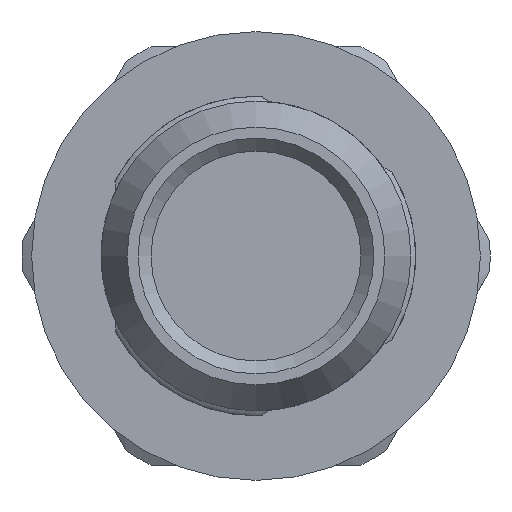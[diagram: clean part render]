
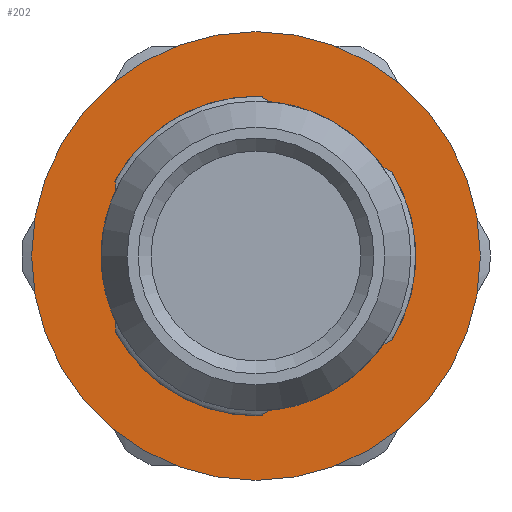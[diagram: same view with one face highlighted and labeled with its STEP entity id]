
A CAD part, front view. The second image highlights one B-rep face of the part: STEP entity #202.
In plain terms, the highlighted planar face has unit normal (0, -1, 0).
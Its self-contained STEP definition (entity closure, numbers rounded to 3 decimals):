
#202 = ADVANCED_FACE( 'NONE', ( #452, #453 ), #454, .T. );
#452 = FACE_OUTER_BOUND( '', #740, .T. );
#453 = FACE_BOUND( '', #741, .T. );
#454 = PLANE( '', #742 );
#740 = EDGE_LOOP( '', ( #1171 ) );
#741 = EDGE_LOOP( '', ( #1172, #1173, #1174, #1175, #1176, #1177, #1178, #1179, #1180, #1181, #1182, #1183 ) );
#742 = AXIS2_PLACEMENT_3D( '', #1184, #1185, #1186 );
#1171 = ORIENTED_EDGE( '', *, *, #1484, .T. );
#1172 = ORIENTED_EDGE( '', *, *, #1530, .F. );
#1173 = ORIENTED_EDGE( '', *, *, #1588, .T. );
#1174 = ORIENTED_EDGE( '', *, *, #1576, .F. );
#1175 = ORIENTED_EDGE( '', *, *, #1549, .F. );
#1176 = ORIENTED_EDGE( '', *, *, #1440, .F. );
#1177 = ORIENTED_EDGE( '', *, *, #1589, .T. );
#1178 = ORIENTED_EDGE( '', *, *, #1590, .F. );
#1179 = ORIENTED_EDGE( '', *, *, #1546, .F. );
#1180 = ORIENTED_EDGE( '', *, *, #1591, .F. );
#1181 = ORIENTED_EDGE( '', *, *, #1592, .T. );
#1182 = ORIENTED_EDGE( '', *, *, #1593, .F. );
#1183 = ORIENTED_EDGE( '', *, *, #1543, .F. );
#1184 = CARTESIAN_POINT( '', ( 4.95, 6.2, 0. ) );
#1185 = DIRECTION( '', ( 0., -1., 0. ) );
#1186 = DIRECTION( '', ( 0., 0., -1. ) );
#1440 = EDGE_CURVE( 'NONE', #1656, #1659, #1660, .T. );
#1484 = EDGE_CURVE( 'NONE', #1731, #1731, #1732, .T. );
#1530 = EDGE_CURVE( 'NONE', #1810, #1813, #1814, .T. );
#1543 = EDGE_CURVE( 'NONE', #1813, #1834, #1835, .T. );
#1546 = EDGE_CURVE( 'NONE', #1837, #1839, #1840, .T. );
#1549 = EDGE_CURVE( 'NONE', #1659, #1844, #1845, .T. );
#1576 = EDGE_CURVE( 'NONE', #1844, #1882, #1885, .T. );
#1588 = EDGE_CURVE( 'NONE', #1810, #1882, #1901, .T. );
#1589 = EDGE_CURVE( 'NONE', #1656, #1902, #1903, .T. );
#1590 = EDGE_CURVE( 'NONE', #1839, #1902, #1904, .T. );
#1591 = EDGE_CURVE( 'NONE', #1905, #1837, #1906, .T. );
#1592 = EDGE_CURVE( 'NONE', #1905, #1907, #1908, .T. );
#1593 = EDGE_CURVE( 'NONE', #1834, #1907, #1909, .T. );
#1656 = VERTEX_POINT( 'NONE', #1985 );
#1659 = VERTEX_POINT( 'NONE', #1989 );
#1660 = LINE( '', #1990, #1991 );
#1731 = VERTEX_POINT( '', #2254 );
#1732 = CIRCLE( '', #2255, 6.95 );
#1810 = VERTEX_POINT( 'NONE', #2485 );
#1813 = VERTEX_POINT( 'NONE', #2489 );
#1814 = LINE( '', #2490, #2491 );
#1834 = VERTEX_POINT( 'NONE', #2585 );
#1835 = CIRCLE( '', #2586, 4.95 );
#1837 = VERTEX_POINT( 'NONE', #2589 );
#1839 = VERTEX_POINT( 'NONE', #2592 );
#1840 = CIRCLE( '', #2593, 4.95 );
#1844 = VERTEX_POINT( 'NONE', #2608 );
#1845 = CIRCLE( '', #2609, 4.95 );
#1882 = VERTEX_POINT( 'NONE', #2698 );
#1885 = LINE( '', #2703, #2704 );
#1901 = CIRCLE( '', #2731, 4.8 );
#1902 = VERTEX_POINT( 'NONE', #2732 );
#1903 = CIRCLE( '', #2733, 4.8 );
#1904 = LINE( '', #2734, #2735 );
#1905 = VERTEX_POINT( 'NONE', #2736 );
#1906 = LINE( '', #2737, #2738 );
#1907 = VERTEX_POINT( 'NONE', #2739 );
#1908 = CIRCLE( '', #2740, 4.8 );
#1909 = LINE( '', #2741, #2742 );
#1985 = CARTESIAN_POINT( '', ( 0.418, 6.2, 4.782 ) );
#1989 = CARTESIAN_POINT( '', ( 0.129, 6.2, 4.948 ) );
#1990 = CARTESIAN_POINT( '', ( 0.129, 6.2, 4.948 ) );
#1991 = VECTOR( '', #2908, 1000. );
#2254 = CARTESIAN_POINT( '', ( 0., 6.2, -6.95 ) );
#2255 = AXIS2_PLACEMENT_3D( '', #2962, #2963, #2964 );
#2485 = CARTESIAN_POINT( '', ( -4.35, 6.2, -2.029 ) );
#2489 = CARTESIAN_POINT( '', ( -4.35, 6.2, -2.362 ) );
#2490 = CARTESIAN_POINT( '', ( -4.35, 6.2, -2.362 ) );
#2491 = VECTOR( '', #3015, 1000. );
#2585 = CARTESIAN_POINT( '', ( 0.129, 6.2, -4.948 ) );
#2586 = AXIS2_PLACEMENT_3D( '', #3024, #3025, #3026 );
#2589 = CARTESIAN_POINT( '', ( 4.221, 6.2, -2.586 ) );
#2592 = CARTESIAN_POINT( '', ( 4.221, 6.2, 2.586 ) );
#2593 = AXIS2_PLACEMENT_3D( '', #3029, #3030, #3031 );
#2608 = CARTESIAN_POINT( '', ( -4.35, 6.2, 2.362 ) );
#2609 = AXIS2_PLACEMENT_3D( '', #3033, #3034, #3035 );
#2698 = CARTESIAN_POINT( '', ( -4.35, 6.2, 2.029 ) );
#2703 = CARTESIAN_POINT( '', ( -4.35, 6.2, -2.362 ) );
#2704 = VECTOR( '', #3056, 1000. );
#2731 = AXIS2_PLACEMENT_3D( '', #3067, #3068, #3069 );
#2732 = CARTESIAN_POINT( '', ( 3.932, 6.2, 2.753 ) );
#2733 = AXIS2_PLACEMENT_3D( '', #3070, #3071, #3072 );
#2734 = CARTESIAN_POINT( '', ( 0.129, 6.2, 4.948 ) );
#2735 = VECTOR( '', #3073, 1000. );
#2736 = CARTESIAN_POINT( '', ( 3.932, 6.2, -2.753 ) );
#2737 = CARTESIAN_POINT( '', ( 4.221, 6.2, -2.586 ) );
#2738 = VECTOR( '', #3074, 1000. );
#2739 = CARTESIAN_POINT( '', ( 0.418, 6.2, -4.782 ) );
#2740 = AXIS2_PLACEMENT_3D( '', #3075, #3076, #3077 );
#2741 = CARTESIAN_POINT( '', ( 4.221, 6.2, -2.586 ) );
#2742 = VECTOR( '', #3078, 1000. );
#2908 = DIRECTION( '', ( -0.866, 0., 0.5 ) );
#2962 = CARTESIAN_POINT( '', ( 0., 6.2, 0. ) );
#2963 = DIRECTION( '', ( 0., -1., 0. ) );
#2964 = DIRECTION( '', ( 0., 0., -1. ) );
#3015 = DIRECTION( '', ( 0., 0., -1. ) );
#3024 = CARTESIAN_POINT( '', ( 0., 6.2, 0. ) );
#3025 = DIRECTION( '', ( 0., -1., 0. ) );
#3026 = DIRECTION( '', ( 0., 0., -1. ) );
#3029 = CARTESIAN_POINT( '', ( 0., 6.2, 0. ) );
#3030 = DIRECTION( '', ( 0., -1., 0. ) );
#3031 = DIRECTION( '', ( 0., 0., -1. ) );
#3033 = CARTESIAN_POINT( '', ( 0., 6.2, 0. ) );
#3034 = DIRECTION( '', ( 0., -1., 0. ) );
#3035 = DIRECTION( '', ( 0., 0., -1. ) );
#3056 = DIRECTION( '', ( 0., 0., -1. ) );
#3067 = CARTESIAN_POINT( '', ( 0., 6.2, 0. ) );
#3068 = DIRECTION( '', ( 0., 1., 0. ) );
#3069 = DIRECTION( '', ( 0., 0., -1. ) );
#3070 = CARTESIAN_POINT( '', ( 0., 6.2, 0. ) );
#3071 = DIRECTION( '', ( 0., 1., 0. ) );
#3072 = DIRECTION( '', ( 0., 0., -1. ) );
#3073 = DIRECTION( '', ( -0.866, 0., 0.5 ) );
#3074 = DIRECTION( '', ( 0.866, 0., 0.5 ) );
#3075 = CARTESIAN_POINT( '', ( 0., 6.2, 0. ) );
#3076 = DIRECTION( '', ( 0., 1., 0. ) );
#3077 = DIRECTION( '', ( 0., 0., -1. ) );
#3078 = DIRECTION( '', ( 0.866, 0., 0.5 ) );
